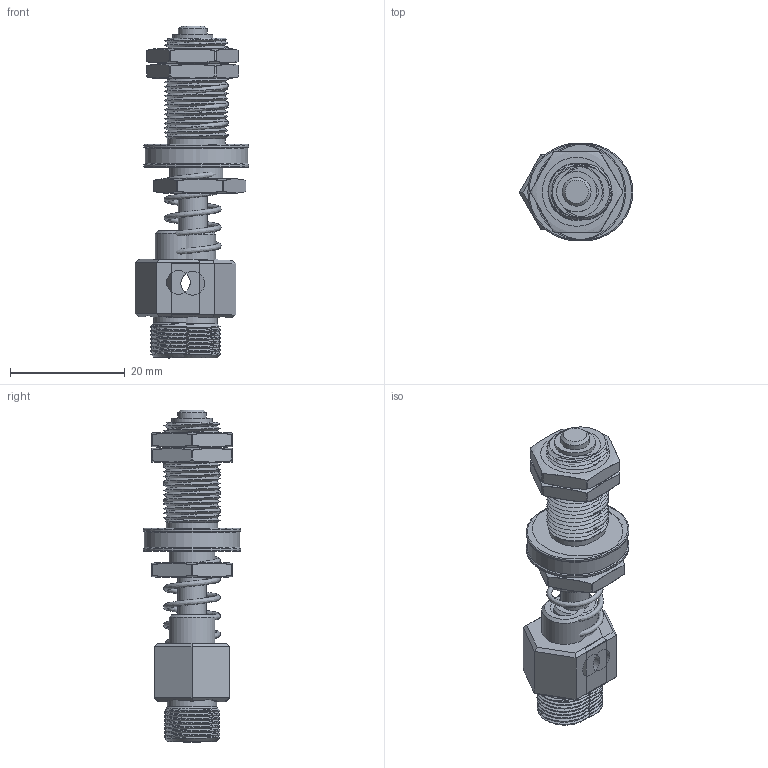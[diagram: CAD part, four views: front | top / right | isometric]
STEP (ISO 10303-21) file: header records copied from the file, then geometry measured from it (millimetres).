
FILE_DESCRIPTION( ( 'Unknown' ), '1' );
FILE_NAME( 'C:/Documents and Settings/Owner/官帕 拳搁/LEVEL SPRING HOMEPAGE/L18 Series/L1808W/L1808W.stp', 'Unknown', ( 'Unknown' ), ( 'Unknown' ), 'PSStep 10.0', 'Unknown', ' ' );
FILE_SCHEMA( ( 'AUTOMOTIVE_DESIGN { 1 0 10303 214 1 1 1 1 }' ) );
Length unit declared in the file: millimetre
Products named in the file (8): Assem1; Part1_0; Part2_0; Part3_0; Nut_M10_SW14_T2.5_0; Nut_M10_SW14_T2.5_0-oa0; Part4_0; Part5_0
Bounding box: 19.75 x 17 x 57.76 mm (x, y, z)
Surface area: 11135.7 mm2 (no closed solid volume)
Topology: 0 solids, 240 shells, 240 faces, 994 edges, 912 vertices
Faces by surface type: plane 116, cylinder 66, cone 34, bspline 12, revolution 8, torus 4
Full cylindrical faces by diameter (mm): 3.1 x4, 4.1 x2, 4.134 x2, 4.984 x4, 5 x4, 7 x2, 8 x4, 8.55 x2, 8.9 x2, 9 x4, 12.25 x2, 16.6 x2, 17 x4
Entity records: 12367 total; most frequent: CARTESIAN_POINT 7664, DIRECTION 780, ORIENTED_EDGE 444, EDGE_CURVE 444, VERTEX_POINT 444, AXIS2_PLACEMENT_3D 308, FACE_BOUND 180, EDGE_LOOP 180
